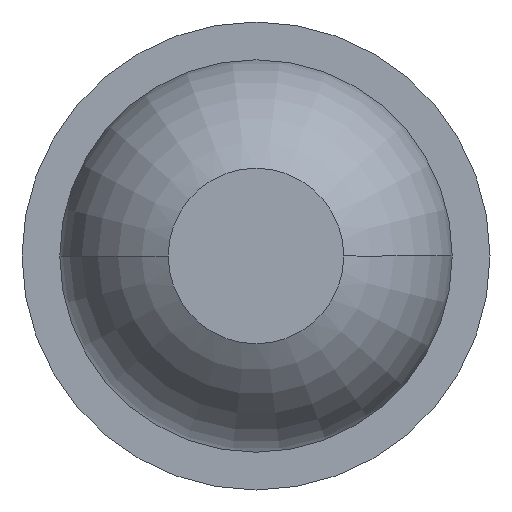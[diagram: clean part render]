
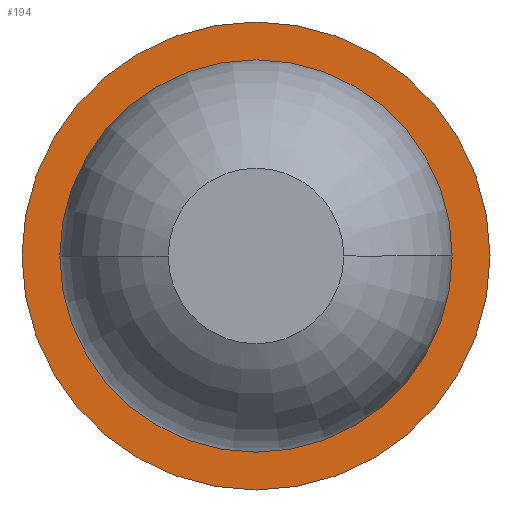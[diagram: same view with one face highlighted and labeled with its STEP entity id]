
A CAD part, left-side view. The second image highlights one B-rep face of the part: STEP entity #194.
In plain terms, the highlighted planar face has unit normal (-1, 0, 0).
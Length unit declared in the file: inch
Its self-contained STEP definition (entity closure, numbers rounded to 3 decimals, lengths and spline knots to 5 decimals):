
#13 = FACE_OUTER_BOUND ( 'NONE', #514, .T. ) ;
#31 = AXIS2_PLACEMENT_3D ( 'NONE', #315, #515, #241 ) ;
#33 = CARTESIAN_POINT ( 'NONE',  ( 1.23, 0.024, 0. ) ) ;
#84 = DIRECTION ( 'NONE',  ( -1., 0., 0. ) ) ;
#102 = CIRCLE ( 'NONE', #732, 0.0123 ) ;
#141 = VERTEX_POINT ( 'NONE', #212 ) ;
#163 = DIRECTION ( 'NONE',  ( 1., 0., 0. ) ) ;
#182 = DIRECTION ( 'NONE',  ( 0., 1., 0. ) ) ;
#194 = ADVANCED_FACE ( 'NONE', ( #577, #13 ), #218, .T. ) ;
#212 = CARTESIAN_POINT ( 'NONE',  ( 1.23, 0., -0.0123 ) ) ;
#218 = PLANE ( 'NONE',  #665 ) ;
#225 = EDGE_CURVE ( 'NONE', #141, #392, #102, .T. ) ;
#241 = DIRECTION ( 'NONE',  ( 0., -1., 0. ) ) ;
#255 = CARTESIAN_POINT ( 'NONE',  ( 1.23, 0., 0.0123 ) ) ;
#315 = CARTESIAN_POINT ( 'NONE',  ( 1.23, 0., 0. ) ) ;
#321 = ORIENTED_EDGE ( 'NONE', *, *, #762, .F. ) ;
#352 = AXIS2_PLACEMENT_3D ( 'NONE', #774, #163, #442 ) ;
#360 = DIRECTION ( 'NONE',  ( -1., 0., 0. ) ) ;
#372 = EDGE_LOOP ( 'NONE', ( #321, #809 ) ) ;
#377 = CARTESIAN_POINT ( 'NONE',  ( 1.23, 0., 0. ) ) ;
#392 = VERTEX_POINT ( 'NONE', #255 ) ;
#441 = VERTEX_POINT ( 'NONE', #681 ) ;
#442 = DIRECTION ( 'NONE',  ( 0., 1., 0. ) ) ;
#482 = ORIENTED_EDGE ( 'NONE', *, *, #816, .F. ) ;
#514 = EDGE_LOOP ( 'NONE', ( #482, #783 ) ) ;
#515 = DIRECTION ( 'NONE',  ( -1., 0., 0. ) ) ;
#577 = FACE_BOUND ( 'NONE', #372, .T. ) ;
#584 = CIRCLE ( 'NONE', #667, 0.024 ) ;
#648 = DIRECTION ( 'NONE',  ( 1., 0., 0. ) ) ;
#665 = AXIS2_PLACEMENT_3D ( 'NONE', #836, #360, #757 ) ;
#667 = AXIS2_PLACEMENT_3D ( 'NONE', #377, #648, #182 ) ;
#681 = CARTESIAN_POINT ( 'NONE',  ( 1.23, -0.024, 0. ) ) ;
#697 = CARTESIAN_POINT ( 'NONE',  ( 1.23, 0., 0. ) ) ;
#732 = AXIS2_PLACEMENT_3D ( 'NONE', #697, #84, #832 ) ;
#735 = CIRCLE ( 'NONE', #352, 0.024 ) ;
#747 = CIRCLE ( 'NONE', #31, 0.0123 ) ;
#757 = DIRECTION ( 'NONE',  ( 0., -1., 0. ) ) ;
#762 = EDGE_CURVE ( 'NONE', #392, #141, #747, .T. ) ;
#774 = CARTESIAN_POINT ( 'NONE',  ( 1.23, 0., 0. ) ) ;
#783 = ORIENTED_EDGE ( 'NONE', *, *, #842, .F. ) ;
#809 = ORIENTED_EDGE ( 'NONE', *, *, #225, .F. ) ;
#816 = EDGE_CURVE ( 'NONE', #841, #441, #584, .T. ) ;
#832 = DIRECTION ( 'NONE',  ( 0., -1., 0. ) ) ;
#836 = CARTESIAN_POINT ( 'NONE',  ( 1.23, 0., 0. ) ) ;
#841 = VERTEX_POINT ( 'NONE', #33 ) ;
#842 = EDGE_CURVE ( 'NONE', #441, #841, #735, .T. ) ;
